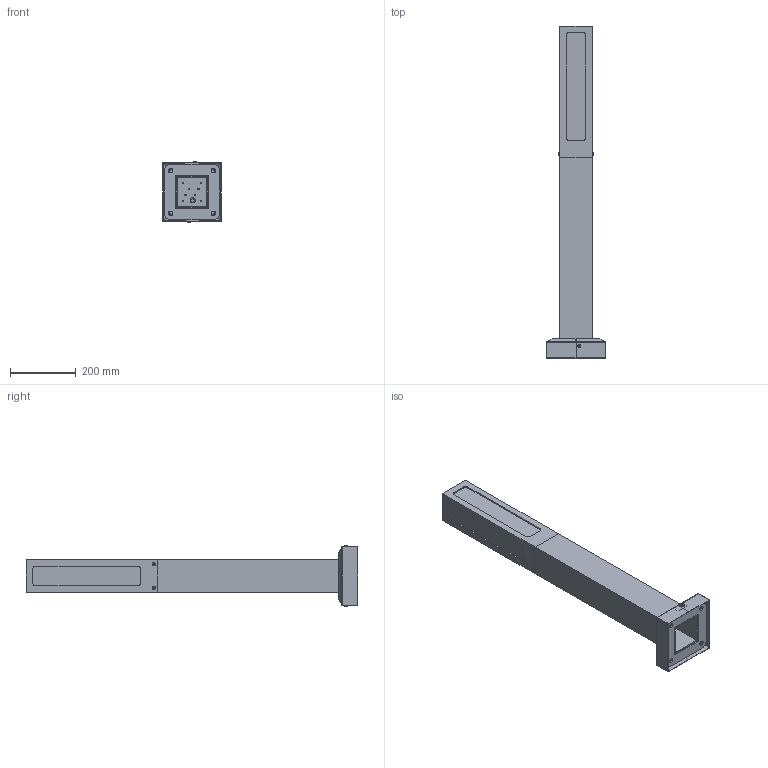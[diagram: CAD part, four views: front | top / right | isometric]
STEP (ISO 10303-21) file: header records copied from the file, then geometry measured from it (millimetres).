
FILE_DESCRIPTION (( 'STEP AP214' ), '1' );
FILE_NAME ('quadra-1-1(20)-(Ê170-130-4õ14)-ö+ïî.STEP', '2021-07-12T13:51:09', ( '' ), ( '' ), 'SwSTEP 2.0', 'SolidWorks 2020', '' );
FILE_SCHEMA (( 'AUTOMOTIVE_DESIGN' ));
Length unit declared in the file: millimetre
Products named in the file (21): 2PSL30SW27P13010, SNOWWHITE, 19X19 昍, EDIPOWER; PL-90DEG-D66MM-01-005; socket button head screw_iso1_ISO 7380 - M6 x 16 - 16N; ﾎ魵瑙韃_ｭｨｧ; ﾓ_ｭｨｧ; 青汶篪赅_ⅴ噱; BS-170(Ê100)  Äåêîðàòèâíûé öîêîëü 170(Ê120); BS-170(Ê100)  Ïîëóêðûøêà; 170õ170õ6 (102õ102) ì.ö. 130, 4õ14_Ôëàíåö_­¨§; quadra-1-1(20)-(Ê170-130-4õ14)-ö+ïî; 栺樏鋋 ; BS-170(Ê100)  Ïëàòèê; 拺鎀鍒鍧 捘; Ðàçúåì WPI-03 02M20 (250Â 20À); çàêë¸ïêà ðåçüáîâàÿ Ì6 ïîòàéíàÿ; 毋铍钼铌_ⅴ噱; BS-170(Ê100) Ïîëóêðûøêà; Ñòâîë quadra-1-(Ê170-130-4õ14)-ãö+ïî; Òðóáà 100õ100õ4 ÀÄ31_­¨§; socket button head screw_iso_ISO 7380 - M6 x 20 - 20N
Assembly tree (35 placements, depth 4):
  quadra-1-1(20)-(Ê170-130-4õ14)-ö+ïî
    Ñòâîë quadra-1-(Ê170-130-4õ14)-ãö+ïî
      170õ170õ6 (102õ102) ì.ö. 130, 4õ14_Ôëàíåö_­¨§
      Òðóáà 100õ100õ4 ÀÄ31_­¨§
      ﾎ魵瑙韃_ｭｨｧ
      ﾓ_ｭｨｧ  x4
    拺鎀鍒鍧 捘
      毋铍钼铌_ⅴ噱
      青汶篪赅_ⅴ噱
    çàêë¸ïêà ðåçüáîâàÿ Ì6 ïîòàéíàÿ  x4
    PL-90DEG-D66MM-01-005
    2PSL30SW27P13010, SNOWWHITE, 19X19 昍, EDIPOWER
    栺樏鋋   x4
    socket button head screw_iso_ISO 7380 - M6 x 20 - 20N  x4
    Ðàçúåì WPI-03 02M20 (250Â 20À)
    BS-170(Ê100)  Äåêîðàòèâíûé öîêîëü 170(Ê120)
      BS-170(Ê100)  Ïîëóêðûøêà
        BS-170(Ê100) Ïîëóêðûøêà
        BS-170(Ê100)  Ïëàòèê
      socket button head screw_iso1_ISO 7380 - M6 x 16 - 16N  x2
      BS-170(Ê100)  Ïîëóêðûøêà
        BS-170(Ê100) Ïîëóêðûøêà
        BS-170(Ê100)  Ïëàòèê
Bounding box: 180 x 1013 x 186.6 mm (x, y, z)
Volume: 1732750.7 mm3; surface area: 1095653.2 mm2
Topology: 30 solids, 30 shells, 723 faces, 1694 edges, 1036 vertices
Faces by surface type: plane 413, cylinder 214, cone 44, sphere 24, bspline 16, torus 12
Entity records: 13747 total; most frequent: CARTESIAN_POINT 2521, DIRECTION 2285, ORIENTED_EDGE 2054, EDGE_CURVE 1027, AXIS2_PLACEMENT_3D 824, LINE 637, VECTOR 637, VERTEX_POINT 636
